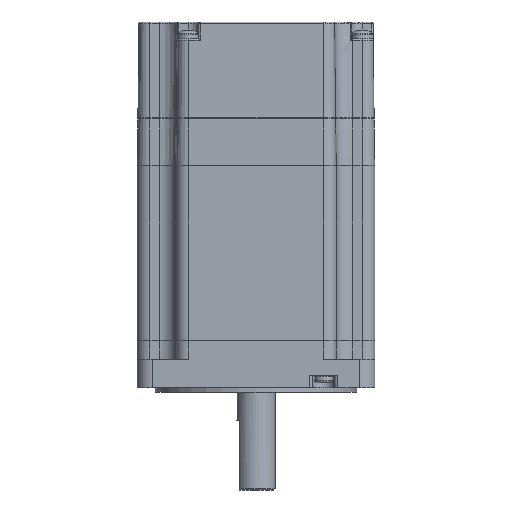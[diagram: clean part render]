
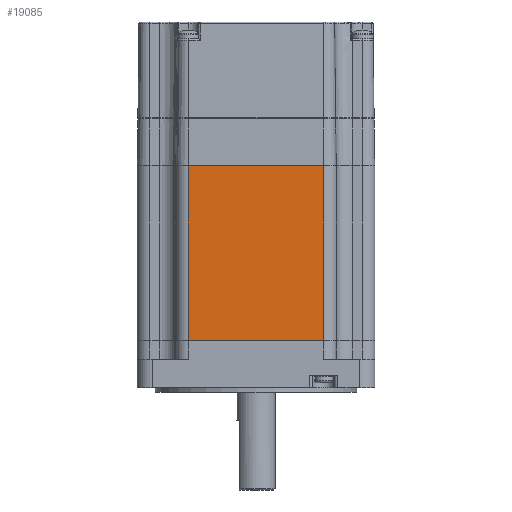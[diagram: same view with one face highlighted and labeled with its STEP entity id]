
A CAD part, front view. The second image highlights one B-rep face of the part: STEP entity #19085.
In plain terms, the highlighted planar face has unit normal (0, -1, 0).
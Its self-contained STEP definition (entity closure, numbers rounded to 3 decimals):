
#2652 = EDGE_CURVE ( 'NONE', #23594, #38316, #42976, .T. ) ;
#3989 = EDGE_CURVE ( 'NONE', #23594, #48642, #41430, .T. ) ;
#9237 = VECTOR ( 'NONE', #29719, 1000. ) ;
#10272 = DIRECTION ( 'NONE',  ( 1., 0., 0. ) ) ;
#11248 = LINE ( 'NONE', #12367, #9237 ) ;
#12367 = CARTESIAN_POINT ( 'NONE',  ( -73.4, 0., 0. ) ) ;
#15611 = CARTESIAN_POINT ( 'NONE',  ( -24.5, 0., -63.25 ) ) ;
#19085 = ADVANCED_FACE ( 'NONE', ( #43212 ), #38170, .T. ) ;
#20013 = VECTOR ( 'NONE', #53672, 1000. ) ;
#23594 = VERTEX_POINT ( 'NONE', #35278 ) ;
#23604 = VERTEX_POINT ( 'NONE', #35839 ) ;
#26440 = CARTESIAN_POINT ( 'NONE',  ( -73.4, 0., 0. ) ) ;
#26669 = EDGE_CURVE ( 'NONE', #48642, #23604, #49083, .T. ) ;
#27389 = VECTOR ( 'NONE', #10272, 1000. ) ;
#29719 = DIRECTION ( 'NONE',  ( 1., 0., 0. ) ) ;
#29905 = CARTESIAN_POINT ( 'NONE',  ( -24.5, 0., -63.25 ) ) ;
#31740 = ORIENTED_EDGE ( 'NONE', *, *, #42590, .F. ) ;
#32567 = VECTOR ( 'NONE', #47867, 1000. ) ;
#33934 = DIRECTION ( 'NONE',  ( 0., -1., 0. ) ) ;
#34817 = CARTESIAN_POINT ( 'NONE',  ( -73.4, 0., -63.25 ) ) ;
#35278 = CARTESIAN_POINT ( 'NONE',  ( -73.4, 0., -63.25 ) ) ;
#35839 = CARTESIAN_POINT ( 'NONE',  ( -24.5, 0., 0. ) ) ;
#37199 = CARTESIAN_POINT ( 'NONE',  ( -73.4, 0., -63.25 ) ) ;
#37561 = ORIENTED_EDGE ( 'NONE', *, *, #3989, .T. ) ;
#38170 = PLANE ( 'NONE',  #48519 ) ;
#38316 = VERTEX_POINT ( 'NONE', #26440 ) ;
#41430 = LINE ( 'NONE', #37199, #27389 ) ;
#41866 = ORIENTED_EDGE ( 'NONE', *, *, #26669, .T. ) ;
#42590 = EDGE_CURVE ( 'NONE', #38316, #23604, #11248, .T. ) ;
#42976 = LINE ( 'NONE', #34817, #32567 ) ;
#43212 = FACE_OUTER_BOUND ( 'NONE', #47780, .T. ) ;
#47780 = EDGE_LOOP ( 'NONE', ( #31740, #55274, #37561, #41866 ) ) ;
#47867 = DIRECTION ( 'NONE',  ( 0., 0., 1. ) ) ;
#48519 = AXIS2_PLACEMENT_3D ( 'NONE', #55530, #33934, #51827 ) ;
#48642 = VERTEX_POINT ( 'NONE', #29905 ) ;
#49083 = LINE ( 'NONE', #15611, #20013 ) ;
#51827 = DIRECTION ( 'NONE',  ( 1., 0., 0. ) ) ;
#53672 = DIRECTION ( 'NONE',  ( 0., 0., 1. ) ) ;
#55274 = ORIENTED_EDGE ( 'NONE', *, *, #2652, .F. ) ;
#55530 = CARTESIAN_POINT ( 'NONE',  ( -73.4, 0., -63.25 ) ) ;
